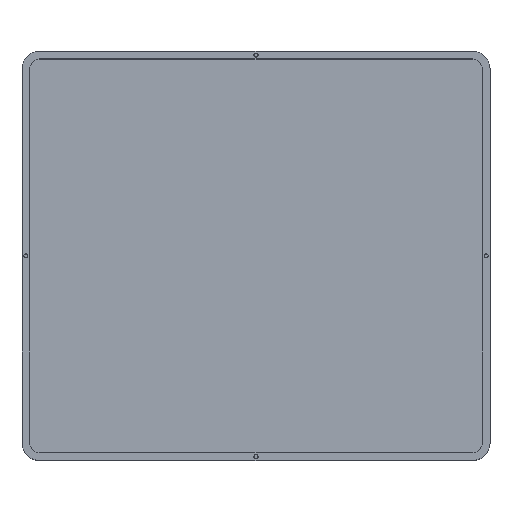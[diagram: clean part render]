
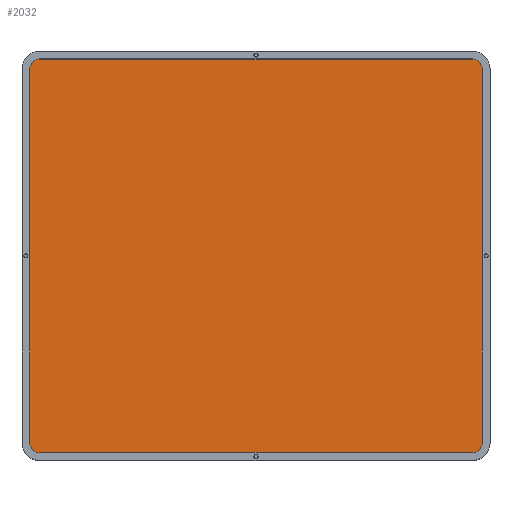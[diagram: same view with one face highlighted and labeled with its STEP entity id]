
A CAD part, top view. The second image highlights one B-rep face of the part: STEP entity #2032.
In plain terms, the highlighted planar face has unit normal (0, 0, 1).
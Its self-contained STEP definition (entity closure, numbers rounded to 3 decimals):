
#429 = CYLINDRICAL_SURFACE('',#430,10.);
#430 = AXIS2_PLACEMENT_3D('',#431,#432,#433);
#431 = CARTESIAN_POINT('',(-222.,-192.,6.));
#432 = DIRECTION('',(0.,0.,1.));
#433 = DIRECTION('',(-1.,-0.,0.));
#456 = PLANE('',#457);
#457 = AXIS2_PLACEMENT_3D('',#458,#459,#460);
#458 = CARTESIAN_POINT('',(-232.,-202.,6.));
#459 = DIRECTION('',(1.,0.,0.));
#460 = DIRECTION('',(0.,0.,1.));
#484 = CYLINDRICAL_SURFACE('',#485,10.);
#485 = AXIS2_PLACEMENT_3D('',#486,#487,#488);
#486 = CARTESIAN_POINT('',(-222.,192.,6.));
#487 = DIRECTION('',(0.,0.,1.));
#488 = DIRECTION('',(-1.,-0.,0.));
#511 = PLANE('',#512);
#512 = AXIS2_PLACEMENT_3D('',#513,#514,#515);
#513 = CARTESIAN_POINT('',(-232.,202.,6.));
#514 = DIRECTION('',(0.,1.,0.));
#515 = DIRECTION('',(0.,0.,1.));
#539 = CYLINDRICAL_SURFACE('',#540,10.);
#540 = AXIS2_PLACEMENT_3D('',#541,#542,#543);
#541 = CARTESIAN_POINT('',(222.,192.,6.));
#542 = DIRECTION('',(0.,0.,1.));
#543 = DIRECTION('',(1.,0.,-0.));
#566 = PLANE('',#567);
#567 = AXIS2_PLACEMENT_3D('',#568,#569,#570);
#568 = CARTESIAN_POINT('',(232.,-202.,6.));
#569 = DIRECTION('',(1.,0.,0.));
#570 = DIRECTION('',(0.,0.,1.));
#594 = CYLINDRICAL_SURFACE('',#595,10.);
#595 = AXIS2_PLACEMENT_3D('',#596,#597,#598);
#596 = CARTESIAN_POINT('',(222.,-192.,6.));
#597 = DIRECTION('',(0.,0.,1.));
#598 = DIRECTION('',(1.,0.,-0.));
#619 = PLANE('',#620);
#620 = AXIS2_PLACEMENT_3D('',#621,#622,#623);
#621 = CARTESIAN_POINT('',(-232.,-202.,6.));
#622 = DIRECTION('',(0.,1.,0.));
#623 = DIRECTION('',(0.,0.,1.));
#1290 = VERTEX_POINT('',#1291);
#1291 = CARTESIAN_POINT('',(-232.,-192.,6.));
#1312 = EDGE_CURVE('',#1290,#1313,#1315,.T.);
#1313 = VERTEX_POINT('',#1314);
#1314 = CARTESIAN_POINT('',(-222.,-202.,6.));
#1315 = SURFACE_CURVE('',#1316,(#1321,#1328),.PCURVE_S1.);
#1316 = CIRCLE('',#1317,10.);
#1317 = AXIS2_PLACEMENT_3D('',#1318,#1319,#1320);
#1318 = CARTESIAN_POINT('',(-222.,-192.,6.));
#1319 = DIRECTION('',(0.,0.,1.));
#1320 = DIRECTION('',(0.,-1.,0.));
#1321 = PCURVE('',#429,#1322);
#1322 = DEFINITIONAL_REPRESENTATION('',(#1323),#1327);
#1323 = LINE('',#1324,#1325);
#1324 = CARTESIAN_POINT('',(-4.712,0.));
#1325 = VECTOR('',#1326,1.);
#1326 = DIRECTION('',(1.,0.));
#1327 = ( GEOMETRIC_REPRESENTATION_CONTEXT(2) 
PARAMETRIC_REPRESENTATION_CONTEXT() REPRESENTATION_CONTEXT('2D SPACE',''
  ) );
#1328 = PCURVE('',#1329,#1334);
#1329 = PLANE('',#1330);
#1330 = AXIS2_PLACEMENT_3D('',#1331,#1332,#1333);
#1331 = CARTESIAN_POINT('',(-232.,-202.,6.));
#1332 = DIRECTION('',(0.,0.,1.));
#1333 = DIRECTION('',(1.,0.,0.));
#1334 = DEFINITIONAL_REPRESENTATION('',(#1335),#1339);
#1335 = CIRCLE('',#1336,10.);
#1336 = AXIS2_PLACEMENT_2D('',#1337,#1338);
#1337 = CARTESIAN_POINT('',(10.,10.));
#1338 = DIRECTION('',(0.,-1.));
#1339 = ( GEOMETRIC_REPRESENTATION_CONTEXT(2) 
PARAMETRIC_REPRESENTATION_CONTEXT() REPRESENTATION_CONTEXT('2D SPACE',''
  ) );
#1368 = EDGE_CURVE('',#1290,#1369,#1371,.T.);
#1369 = VERTEX_POINT('',#1370);
#1370 = CARTESIAN_POINT('',(-232.,192.,6.));
#1371 = SURFACE_CURVE('',#1372,(#1376,#1383),.PCURVE_S1.);
#1372 = LINE('',#1373,#1374);
#1373 = CARTESIAN_POINT('',(-232.,-202.,6.));
#1374 = VECTOR('',#1375,1.);
#1375 = DIRECTION('',(0.,1.,0.));
#1376 = PCURVE('',#456,#1377);
#1377 = DEFINITIONAL_REPRESENTATION('',(#1378),#1382);
#1378 = LINE('',#1379,#1380);
#1379 = CARTESIAN_POINT('',(0.,0.));
#1380 = VECTOR('',#1381,1.);
#1381 = DIRECTION('',(0.,-1.));
#1382 = ( GEOMETRIC_REPRESENTATION_CONTEXT(2) 
PARAMETRIC_REPRESENTATION_CONTEXT() REPRESENTATION_CONTEXT('2D SPACE',''
  ) );
#1383 = PCURVE('',#1329,#1384);
#1384 = DEFINITIONAL_REPRESENTATION('',(#1385),#1389);
#1385 = LINE('',#1386,#1387);
#1386 = CARTESIAN_POINT('',(0.,0.));
#1387 = VECTOR('',#1388,1.);
#1388 = DIRECTION('',(0.,1.));
#1389 = ( GEOMETRIC_REPRESENTATION_CONTEXT(2) 
PARAMETRIC_REPRESENTATION_CONTEXT() REPRESENTATION_CONTEXT('2D SPACE',''
  ) );
#1415 = EDGE_CURVE('',#1313,#1416,#1418,.T.);
#1416 = VERTEX_POINT('',#1417);
#1417 = CARTESIAN_POINT('',(222.,-202.,6.));
#1418 = SURFACE_CURVE('',#1419,(#1423,#1430),.PCURVE_S1.);
#1419 = LINE('',#1420,#1421);
#1420 = CARTESIAN_POINT('',(-232.,-202.,6.));
#1421 = VECTOR('',#1422,1.);
#1422 = DIRECTION('',(1.,0.,0.));
#1423 = PCURVE('',#619,#1424);
#1424 = DEFINITIONAL_REPRESENTATION('',(#1425),#1429);
#1425 = LINE('',#1426,#1427);
#1426 = CARTESIAN_POINT('',(0.,0.));
#1427 = VECTOR('',#1428,1.);
#1428 = DIRECTION('',(0.,1.));
#1429 = ( GEOMETRIC_REPRESENTATION_CONTEXT(2) 
PARAMETRIC_REPRESENTATION_CONTEXT() REPRESENTATION_CONTEXT('2D SPACE',''
  ) );
#1430 = PCURVE('',#1329,#1431);
#1431 = DEFINITIONAL_REPRESENTATION('',(#1432),#1436);
#1432 = LINE('',#1433,#1434);
#1433 = CARTESIAN_POINT('',(0.,0.));
#1434 = VECTOR('',#1435,1.);
#1435 = DIRECTION('',(1.,0.));
#1436 = ( GEOMETRIC_REPRESENTATION_CONTEXT(2) 
PARAMETRIC_REPRESENTATION_CONTEXT() REPRESENTATION_CONTEXT('2D SPACE',''
  ) );
#1517 = EDGE_CURVE('',#1369,#1518,#1520,.T.);
#1518 = VERTEX_POINT('',#1519);
#1519 = CARTESIAN_POINT('',(-222.,202.,6.));
#1520 = SURFACE_CURVE('',#1521,(#1526,#1533),.PCURVE_S1.);
#1521 = CIRCLE('',#1522,10.);
#1522 = AXIS2_PLACEMENT_3D('',#1523,#1524,#1525);
#1523 = CARTESIAN_POINT('',(-222.,192.,6.));
#1524 = DIRECTION('',(-0.,-0.,-1.));
#1525 = DIRECTION('',(0.,-1.,0.));
#1526 = PCURVE('',#484,#1527);
#1527 = DEFINITIONAL_REPRESENTATION('',(#1528),#1532);
#1528 = LINE('',#1529,#1530);
#1529 = CARTESIAN_POINT('',(1.571,-0.));
#1530 = VECTOR('',#1531,1.);
#1531 = DIRECTION('',(-1.,0.));
#1532 = ( GEOMETRIC_REPRESENTATION_CONTEXT(2) 
PARAMETRIC_REPRESENTATION_CONTEXT() REPRESENTATION_CONTEXT('2D SPACE',''
  ) );
#1533 = PCURVE('',#1329,#1534);
#1534 = DEFINITIONAL_REPRESENTATION('',(#1535),#1543);
#1535 = ( BOUNDED_CURVE() B_SPLINE_CURVE(2,(#1536,#1537,#1538,#1539,
#1540,#1541,#1542),.UNSPECIFIED.,.T.,.F.) B_SPLINE_CURVE_WITH_KNOTS((1,2
    ,2,2,2,1),(-2.094,0.,2.094,4.189,
6.283,8.378),.UNSPECIFIED.) CURVE() 
GEOMETRIC_REPRESENTATION_ITEM() RATIONAL_B_SPLINE_CURVE((1.,0.5,1.,0.5,
1.,0.5,1.)) REPRESENTATION_ITEM('') );
#1536 = CARTESIAN_POINT('',(10.,384.));
#1537 = CARTESIAN_POINT('',(-7.321,384.));
#1538 = CARTESIAN_POINT('',(1.34,399.));
#1539 = CARTESIAN_POINT('',(10.,414.));
#1540 = CARTESIAN_POINT('',(18.66,399.));
#1541 = CARTESIAN_POINT('',(27.321,384.));
#1542 = CARTESIAN_POINT('',(10.,384.));
#1543 = ( GEOMETRIC_REPRESENTATION_CONTEXT(2) 
PARAMETRIC_REPRESENTATION_CONTEXT() REPRESENTATION_CONTEXT('2D SPACE',''
  ) );
#1571 = VERTEX_POINT('',#1572);
#1572 = CARTESIAN_POINT('',(232.,-192.,6.));
#1593 = EDGE_CURVE('',#1571,#1416,#1594,.T.);
#1594 = SURFACE_CURVE('',#1595,(#1600,#1607),.PCURVE_S1.);
#1595 = CIRCLE('',#1596,10.);
#1596 = AXIS2_PLACEMENT_3D('',#1597,#1598,#1599);
#1597 = CARTESIAN_POINT('',(222.,-192.,6.));
#1598 = DIRECTION('',(-0.,-0.,-1.));
#1599 = DIRECTION('',(0.,-1.,0.));
#1600 = PCURVE('',#594,#1601);
#1601 = DEFINITIONAL_REPRESENTATION('',(#1602),#1606);
#1602 = LINE('',#1603,#1604);
#1603 = CARTESIAN_POINT('',(4.712,-0.));
#1604 = VECTOR('',#1605,1.);
#1605 = DIRECTION('',(-1.,0.));
#1606 = ( GEOMETRIC_REPRESENTATION_CONTEXT(2) 
PARAMETRIC_REPRESENTATION_CONTEXT() REPRESENTATION_CONTEXT('2D SPACE',''
  ) );
#1607 = PCURVE('',#1329,#1608);
#1608 = DEFINITIONAL_REPRESENTATION('',(#1609),#1617);
#1609 = ( BOUNDED_CURVE() B_SPLINE_CURVE(2,(#1610,#1611,#1612,#1613,
#1614,#1615,#1616),.UNSPECIFIED.,.T.,.F.) B_SPLINE_CURVE_WITH_KNOTS((1,2
    ,2,2,2,1),(-2.094,0.,2.094,4.189,
6.283,8.378),.UNSPECIFIED.) CURVE() 
GEOMETRIC_REPRESENTATION_ITEM() RATIONAL_B_SPLINE_CURVE((1.,0.5,1.,0.5,
1.,0.5,1.)) REPRESENTATION_ITEM('') );
#1610 = CARTESIAN_POINT('',(454.,0.));
#1611 = CARTESIAN_POINT('',(436.679,0.));
#1612 = CARTESIAN_POINT('',(445.34,15.));
#1613 = CARTESIAN_POINT('',(454.,30.));
#1614 = CARTESIAN_POINT('',(462.66,15.));
#1615 = CARTESIAN_POINT('',(471.321,0.));
#1616 = CARTESIAN_POINT('',(454.,0.));
#1617 = ( GEOMETRIC_REPRESENTATION_CONTEXT(2) 
PARAMETRIC_REPRESENTATION_CONTEXT() REPRESENTATION_CONTEXT('2D SPACE',''
  ) );
#1624 = EDGE_CURVE('',#1518,#1625,#1627,.T.);
#1625 = VERTEX_POINT('',#1626);
#1626 = CARTESIAN_POINT('',(222.,202.,6.));
#1627 = SURFACE_CURVE('',#1628,(#1632,#1639),.PCURVE_S1.);
#1628 = LINE('',#1629,#1630);
#1629 = CARTESIAN_POINT('',(-232.,202.,6.));
#1630 = VECTOR('',#1631,1.);
#1631 = DIRECTION('',(1.,0.,0.));
#1632 = PCURVE('',#511,#1633);
#1633 = DEFINITIONAL_REPRESENTATION('',(#1634),#1638);
#1634 = LINE('',#1635,#1636);
#1635 = CARTESIAN_POINT('',(0.,0.));
#1636 = VECTOR('',#1637,1.);
#1637 = DIRECTION('',(0.,1.));
#1638 = ( GEOMETRIC_REPRESENTATION_CONTEXT(2) 
PARAMETRIC_REPRESENTATION_CONTEXT() REPRESENTATION_CONTEXT('2D SPACE',''
  ) );
#1639 = PCURVE('',#1329,#1640);
#1640 = DEFINITIONAL_REPRESENTATION('',(#1641),#1645);
#1641 = LINE('',#1642,#1643);
#1642 = CARTESIAN_POINT('',(0.,404.));
#1643 = VECTOR('',#1644,1.);
#1644 = DIRECTION('',(1.,0.));
#1645 = ( GEOMETRIC_REPRESENTATION_CONTEXT(2) 
PARAMETRIC_REPRESENTATION_CONTEXT() REPRESENTATION_CONTEXT('2D SPACE',''
  ) );
#1735 = EDGE_CURVE('',#1571,#1736,#1738,.T.);
#1736 = VERTEX_POINT('',#1737);
#1737 = CARTESIAN_POINT('',(232.,192.,6.));
#1738 = SURFACE_CURVE('',#1739,(#1743,#1750),.PCURVE_S1.);
#1739 = LINE('',#1740,#1741);
#1740 = CARTESIAN_POINT('',(232.,-202.,6.));
#1741 = VECTOR('',#1742,1.);
#1742 = DIRECTION('',(0.,1.,0.));
#1743 = PCURVE('',#566,#1744);
#1744 = DEFINITIONAL_REPRESENTATION('',(#1745),#1749);
#1745 = LINE('',#1746,#1747);
#1746 = CARTESIAN_POINT('',(0.,0.));
#1747 = VECTOR('',#1748,1.);
#1748 = DIRECTION('',(0.,-1.));
#1749 = ( GEOMETRIC_REPRESENTATION_CONTEXT(2) 
PARAMETRIC_REPRESENTATION_CONTEXT() REPRESENTATION_CONTEXT('2D SPACE',''
  ) );
#1750 = PCURVE('',#1329,#1751);
#1751 = DEFINITIONAL_REPRESENTATION('',(#1752),#1756);
#1752 = LINE('',#1753,#1754);
#1753 = CARTESIAN_POINT('',(464.,0.));
#1754 = VECTOR('',#1755,1.);
#1755 = DIRECTION('',(0.,1.));
#1756 = ( GEOMETRIC_REPRESENTATION_CONTEXT(2) 
PARAMETRIC_REPRESENTATION_CONTEXT() REPRESENTATION_CONTEXT('2D SPACE',''
  ) );
#1783 = EDGE_CURVE('',#1736,#1625,#1784,.T.);
#1784 = SURFACE_CURVE('',#1785,(#1790,#1797),.PCURVE_S1.);
#1785 = CIRCLE('',#1786,10.);
#1786 = AXIS2_PLACEMENT_3D('',#1787,#1788,#1789);
#1787 = CARTESIAN_POINT('',(222.,192.,6.));
#1788 = DIRECTION('',(0.,0.,1.));
#1789 = DIRECTION('',(0.,-1.,0.));
#1790 = PCURVE('',#539,#1791);
#1791 = DEFINITIONAL_REPRESENTATION('',(#1792),#1796);
#1792 = LINE('',#1793,#1794);
#1793 = CARTESIAN_POINT('',(-1.571,0.));
#1794 = VECTOR('',#1795,1.);
#1795 = DIRECTION('',(1.,0.));
#1796 = ( GEOMETRIC_REPRESENTATION_CONTEXT(2) 
PARAMETRIC_REPRESENTATION_CONTEXT() REPRESENTATION_CONTEXT('2D SPACE',''
  ) );
#1797 = PCURVE('',#1329,#1798);
#1798 = DEFINITIONAL_REPRESENTATION('',(#1799),#1803);
#1799 = CIRCLE('',#1800,10.);
#1800 = AXIS2_PLACEMENT_2D('',#1801,#1802);
#1801 = CARTESIAN_POINT('',(454.,394.));
#1802 = DIRECTION('',(0.,-1.));
#1803 = ( GEOMETRIC_REPRESENTATION_CONTEXT(2) 
PARAMETRIC_REPRESENTATION_CONTEXT() REPRESENTATION_CONTEXT('2D SPACE',''
  ) );
#2032 = ADVANCED_FACE('',(#2033),#1329,.T.);
#2033 = FACE_BOUND('',#2034,.T.);
#2034 = EDGE_LOOP('',(#2035,#2036,#2037,#2038,#2039,#2040,#2041,#2042));
#2035 = ORIENTED_EDGE('',*,*,#1368,.F.);
#2036 = ORIENTED_EDGE('',*,*,#1312,.T.);
#2037 = ORIENTED_EDGE('',*,*,#1415,.T.);
#2038 = ORIENTED_EDGE('',*,*,#1593,.F.);
#2039 = ORIENTED_EDGE('',*,*,#1735,.T.);
#2040 = ORIENTED_EDGE('',*,*,#1783,.T.);
#2041 = ORIENTED_EDGE('',*,*,#1624,.F.);
#2042 = ORIENTED_EDGE('',*,*,#1517,.F.);
